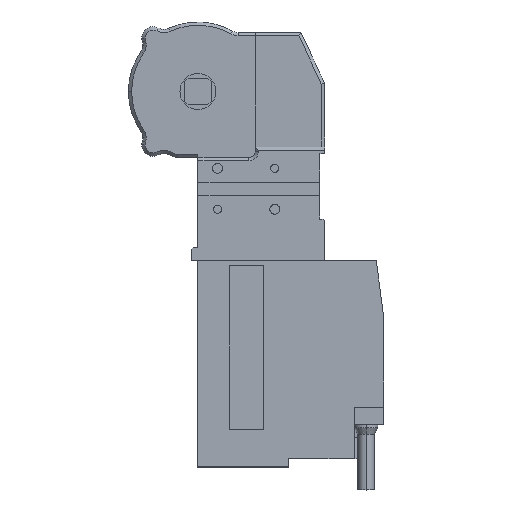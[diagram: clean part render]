
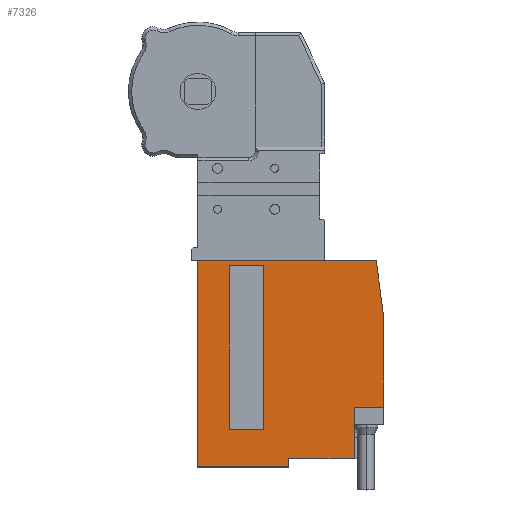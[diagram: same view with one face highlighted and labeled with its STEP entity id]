
A CAD part, top view. The second image highlights one B-rep face of the part: STEP entity #7326.
In plain terms, the highlighted planar face has unit normal (0, 0, 1).
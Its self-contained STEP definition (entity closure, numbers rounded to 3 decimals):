
#6352=DIRECTION('',(0.,-1.,0.));
#6353=VECTOR('',#6352,55.5);
#6354=CARTESIAN_POINT('',(113.5,-137.5,28.));
#6355=LINE('',#6354,#6353);
#6394=DIRECTION('',(0.,1.,0.));
#6395=VECTOR('',#6394,31.5);
#6396=CARTESIAN_POINT('',(95.5,-224.5,28.));
#6397=LINE('',#6396,#6395);
#6401=DIRECTION('',(1.,0.,0.));
#6402=VECTOR('',#6401,40.);
#6403=CARTESIAN_POINT('',(55.5,-224.5,28.));
#6404=LINE('',#6403,#6402);
#6408=DIRECTION('',(0.,1.,0.));
#6409=VECTOR('',#6408,5.);
#6410=CARTESIAN_POINT('',(55.5,-229.5,28.));
#6411=LINE('',#6410,#6409);
#6415=DIRECTION('',(1.,0.,0.));
#6416=VECTOR('',#6415,56.);
#6417=CARTESIAN_POINT('',(-0.5,-229.5,28.));
#6418=LINE('',#6417,#6416);
#6422=DIRECTION('',(0.,-1.,0.));
#6423=VECTOR('',#6422,126.);
#6424=CARTESIAN_POINT('',(-0.5,-103.5,28.));
#6425=LINE('',#6424,#6423);
#6429=DIRECTION('',(-0.131,0.991,0.));
#6430=VECTOR('',#6429,34.293);
#6431=CARTESIAN_POINT('',(113.5,-137.5,28.));
#6432=LINE('',#6431,#6430);
#6436=DIRECTION('',(0.,-1.,0.));
#6437=VECTOR('',#6436,100.);
#6438=CARTESIAN_POINT('',(40.,-106.5,28.));
#6439=LINE('',#6438,#6437);
#6443=DIRECTION('',(1.,0.,0.));
#6444=VECTOR('',#6443,21.);
#6445=CARTESIAN_POINT('',(19.,-106.5,28.));
#6446=LINE('',#6445,#6444);
#6450=DIRECTION('',(0.,1.,0.));
#6451=VECTOR('',#6450,100.);
#6452=CARTESIAN_POINT('',(19.,-206.5,28.));
#6453=LINE('',#6452,#6451);
#6457=DIRECTION('',(1.,0.,0.));
#6458=VECTOR('',#6457,21.);
#6459=CARTESIAN_POINT('',(19.,-206.5,28.));
#6460=LINE('',#6459,#6458);
#6763=DIRECTION('',(1.,0.,0.));
#6764=VECTOR('',#6763,109.524);
#6765=CARTESIAN_POINT('',(-0.5,-103.5,28.));
#6766=LINE('',#6765,#6764);
#7062=DIRECTION('',(-1.,0.,0.));
#7063=VECTOR('',#7062,18.);
#7064=CARTESIAN_POINT('',(113.5,-193.,28.));
#7065=LINE('',#7064,#7063);
#7130=CARTESIAN_POINT('',(-0.5,-229.5,28.));
#7132=VERTEX_POINT('',#7130);
#7133=CARTESIAN_POINT('',(113.5,-137.5,28.));
#7134=CARTESIAN_POINT('',(109.024,-103.5,28.));
#7135=VERTEX_POINT('',#7133);
#7136=VERTEX_POINT('',#7134);
#7145=CARTESIAN_POINT('',(95.5,-224.5,28.));
#7147=VERTEX_POINT('',#7145);
#7153=CARTESIAN_POINT('',(-0.5,-103.5,28.));
#7154=VERTEX_POINT('',#7153);
#7165=CARTESIAN_POINT('',(55.5,-229.5,28.));
#7166=CARTESIAN_POINT('',(55.5,-224.5,28.));
#7167=VERTEX_POINT('',#7165);
#7168=VERTEX_POINT('',#7166);
#7173=CARTESIAN_POINT('',(95.5,-193.,28.));
#7174=VERTEX_POINT('',#7173);
#7207=CARTESIAN_POINT('',(113.5,-193.,28.));
#7208=VERTEX_POINT('',#7207);
#7239=CARTESIAN_POINT('',(40.,-106.5,28.));
#7240=CARTESIAN_POINT('',(40.,-206.5,28.));
#7241=VERTEX_POINT('',#7239);
#7242=VERTEX_POINT('',#7240);
#7243=CARTESIAN_POINT('',(19.,-106.5,28.));
#7244=VERTEX_POINT('',#7243);
#7245=CARTESIAN_POINT('',(19.,-206.5,28.));
#7246=VERTEX_POINT('',#7245);
#7292=CARTESIAN_POINT('',(-0.5,-229.5,28.));
#7293=DIRECTION('',(0.,0.,-1.));
#7294=DIRECTION('',(-1.,0.,0.));
#7295=AXIS2_PLACEMENT_3D('',#7292,#7293,#7294);
#7296=PLANE('',#7295);
#7298=ORIENTED_EDGE('',*,*,#7297,.F.);
#7300=ORIENTED_EDGE('',*,*,#7299,.F.);
#7302=ORIENTED_EDGE('',*,*,#7301,.F.);
#7304=ORIENTED_EDGE('',*,*,#7303,.F.);
#7306=ORIENTED_EDGE('',*,*,#7305,.F.);
#7308=ORIENTED_EDGE('',*,*,#7307,.T.);
#7310=ORIENTED_EDGE('',*,*,#7309,.F.);
#7311=ORIENTED_EDGE('',*,*,#7266,.T.);
#7313=ORIENTED_EDGE('',*,*,#7312,.T.);
#7314=EDGE_LOOP('',(#7298,#7300,#7302,#7304,#7306,#7308,#7310,#7311,#7313));
#7315=FACE_OUTER_BOUND('',#7314,.F.);
#7317=ORIENTED_EDGE('',*,*,#7316,.F.);
#7319=ORIENTED_EDGE('',*,*,#7318,.F.);
#7321=ORIENTED_EDGE('',*,*,#7320,.F.);
#7323=ORIENTED_EDGE('',*,*,#7322,.T.);
#7324=EDGE_LOOP('',(#7317,#7319,#7321,#7323));
#7325=FACE_BOUND('',#7324,.F.);
#7266=EDGE_CURVE('',#7135,#7208,#6355,.T.);
#7297=EDGE_CURVE('',#7147,#7174,#6397,.T.);
#7299=EDGE_CURVE('',#7168,#7147,#6404,.T.);
#7301=EDGE_CURVE('',#7167,#7168,#6411,.T.);
#7303=EDGE_CURVE('',#7132,#7167,#6418,.T.);
#7305=EDGE_CURVE('',#7154,#7132,#6425,.T.);
#7307=EDGE_CURVE('',#7154,#7136,#6766,.T.);
#7309=EDGE_CURVE('',#7135,#7136,#6432,.T.);
#7312=EDGE_CURVE('',#7208,#7174,#7065,.T.);
#7316=EDGE_CURVE('',#7241,#7242,#6439,.T.);
#7318=EDGE_CURVE('',#7244,#7241,#6446,.T.);
#7320=EDGE_CURVE('',#7246,#7244,#6453,.T.);
#7322=EDGE_CURVE('',#7246,#7242,#6460,.T.);
#7326=ADVANCED_FACE('',(#7315,#7325),#7296,.F.);
